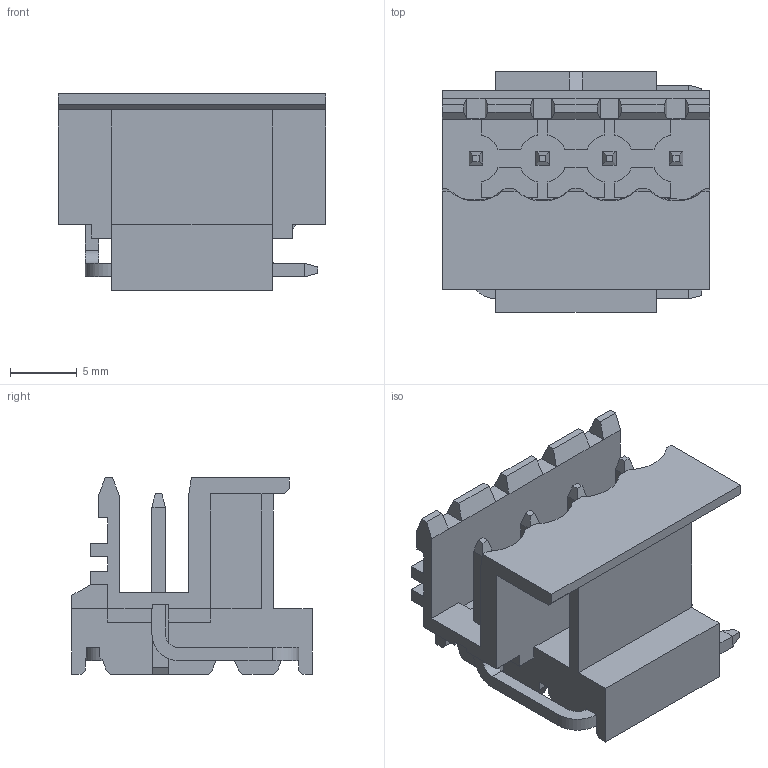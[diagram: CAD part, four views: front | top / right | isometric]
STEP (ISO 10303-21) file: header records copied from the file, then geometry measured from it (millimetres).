
FILE_DESCRIPTION(('FreeCAD Model'),'2;1');
FILE_NAME('Open CASCADE Shape Model','2023-04-26T12:07:46',('Author'),( ''),'Open CASCADE STEP processor 7.6','FreeCAD','Unknown');
FILE_SCHEMA(('AUTOMOTIVE_DESIGN { 1 0 10303 214 1 1 1 1 }'));
Length unit declared in the file: millimetre
Products named in the file (1): BR1704-PD
Bounding box: 20 x 18 x 14.7 mm (x, y, z)
Volume: 1479.3 mm3; surface area: 3057.2 mm2
Topology: 2 solids, 4 shells, 405 faces, 1142 edges, 735 vertices
Faces by surface type: bspline 405
Entity records: 27766 total; most frequent: CARTESIAN_POINT 12780, B_SPLINE_CURVE_WITH_KNOTS 3287, ORIENTED_EDGE 2290, PCURVE 2284, DEFINITIONAL_REPRESENTATION 2284, EDGE_CURVE 1142, SURFACE_CURVE 1142, VERTEX_POINT 735
